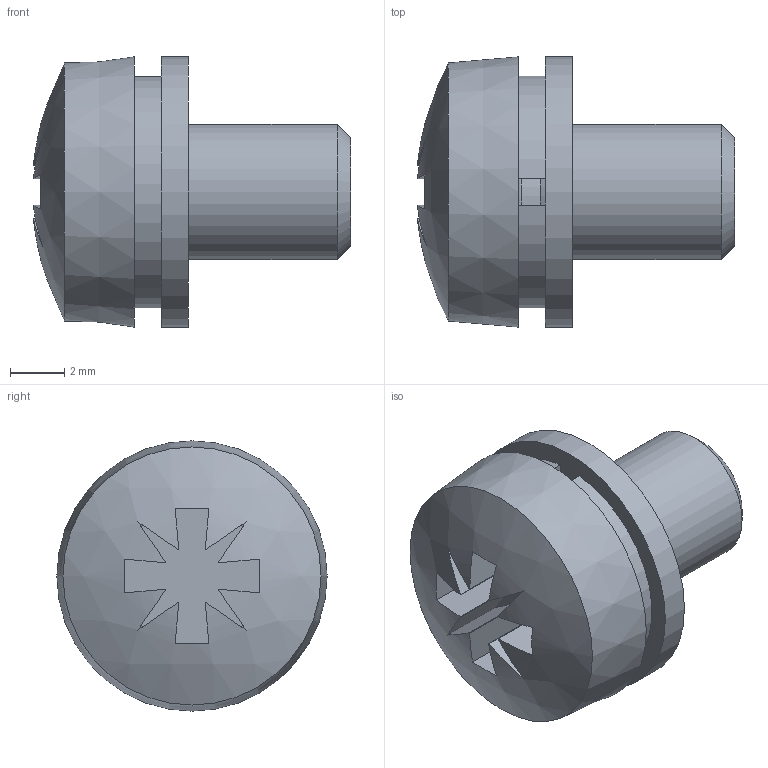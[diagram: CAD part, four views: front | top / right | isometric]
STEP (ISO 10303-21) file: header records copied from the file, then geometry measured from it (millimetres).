
FILE_DESCRIPTION(/* description */ ('Kombischraube Linsenkopf mit Torx -DIN 6900-3 Z4-1 Z M5x8 St4.8 vzk','CAx-IF Rec.Pracs.---Representation and Presentation of Product Manufacturing Information (PMI)---4.0---2014-10-13'),/* implementation_level */ '2;1');
FILE_NAME(/* name */ 'E:\CAMTEC_2020_Pack and Go\Subrack_2U\2530397.stp',/* time_stamp */ '2020-09-21T14:52:40+02:00',/* author */ ('rryba'),/* organization */ ('ART'),/* preprocessor_version */ 'ST-DEVELOPER v18.1',/* originating_system */ 'Autodesk Inventor 2021',/* authorisation */ '');
FILE_SCHEMA (('AP242_MANAGED_MODEL_BASED_3D_ENGINEERING_MIM_LF { 1 0 10303 442 1 1 4 }'));
Length unit declared in the file: millimetre
Products named in the file (1): 2530397
Bounding box: 11.74 x 10 x 10 mm (x, y, z)
Volume: 455.2 mm3; surface area: 514.4 mm2
Topology: 1 solids, 1 shells, 44 faces, 180 edges, 209 vertices
Faces by surface type: plane 35, cone 4, cylinder 3, torus 1, sphere 1
Full cylindrical faces by diameter (mm): 5 x1, 10 x1
Entity records: 1771 total; most frequent: CARTESIAN_POINT 393, DIRECTION 246, ORIENTED_EDGE 226, EDGE_CURVE 113, AXIS2_PLACEMENT_3D 90, STYLED_ITEM 76, PRESENTATION_STYLE_ASSIGNMENT 76, VERTEX_POINT 75
